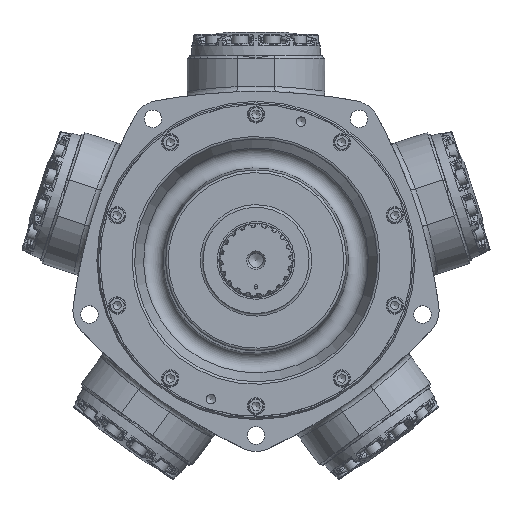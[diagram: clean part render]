
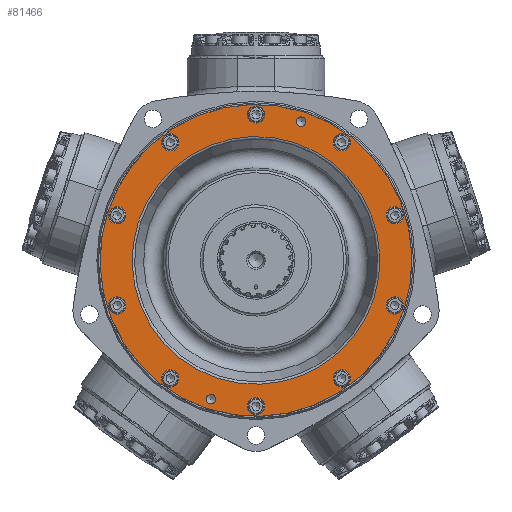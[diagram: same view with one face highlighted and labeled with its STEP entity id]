
A CAD part, top view. The second image highlights one B-rep face of the part: STEP entity #81466.
In plain terms, the highlighted planar face has unit normal (0, 0, 1).
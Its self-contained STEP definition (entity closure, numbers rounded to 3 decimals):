
#7433=FACE_BOUND('',#16853,.T.);
#7434=FACE_BOUND('',#16854,.T.);
#7435=FACE_BOUND('',#16855,.T.);
#7436=FACE_BOUND('',#16856,.T.);
#7437=FACE_BOUND('',#16857,.T.);
#7438=FACE_BOUND('',#16858,.T.);
#7439=FACE_BOUND('',#16859,.T.);
#7440=FACE_BOUND('',#16860,.T.);
#7441=FACE_BOUND('',#16861,.T.);
#7442=FACE_BOUND('',#16862,.T.);
#7443=FACE_BOUND('',#16863,.T.);
#7444=FACE_BOUND('',#16864,.T.);
#7445=FACE_BOUND('',#16865,.T.);
#8194=PLANE('',#87133);
#11674=FACE_OUTER_BOUND('',#16852,.T.);
#16852=EDGE_LOOP('',(#58495));
#16853=EDGE_LOOP('',(#58496));
#16854=EDGE_LOOP('',(#58497));
#16855=EDGE_LOOP('',(#58498));
#16856=EDGE_LOOP('',(#58499));
#16857=EDGE_LOOP('',(#58500));
#16858=EDGE_LOOP('',(#58501));
#16859=EDGE_LOOP('',(#58502));
#16860=EDGE_LOOP('',(#58503));
#16861=EDGE_LOOP('',(#58504));
#16862=EDGE_LOOP('',(#58505));
#16863=EDGE_LOOP('',(#58506));
#16864=EDGE_LOOP('',(#58507));
#16865=EDGE_LOOP('',(#58508));
#28955=CIRCLE('',#87114,148.273);
#28967=CIRCLE('',#87134,186.628);
#28968=CIRCLE('',#87135,5.664);
#28969=CIRCLE('',#87136,5.664);
#28970=CIRCLE('',#87137,10.319);
#28971=CIRCLE('',#87138,10.319);
#28972=CIRCLE('',#87139,10.319);
#28973=CIRCLE('',#87140,10.319);
#28974=CIRCLE('',#87141,10.319);
#28975=CIRCLE('',#87142,10.319);
#28976=CIRCLE('',#87143,10.319);
#28977=CIRCLE('',#87144,10.319);
#28978=CIRCLE('',#87145,10.319);
#28979=CIRCLE('',#87146,10.319);
#33779=VERTEX_POINT('',#150720);
#33789=VERTEX_POINT('',#150754);
#33790=VERTEX_POINT('',#150756);
#33791=VERTEX_POINT('',#150758);
#33792=VERTEX_POINT('',#150760);
#33793=VERTEX_POINT('',#150762);
#33794=VERTEX_POINT('',#150764);
#33795=VERTEX_POINT('',#150766);
#33796=VERTEX_POINT('',#150768);
#33797=VERTEX_POINT('',#150770);
#33798=VERTEX_POINT('',#150772);
#33799=VERTEX_POINT('',#150774);
#33800=VERTEX_POINT('',#150776);
#33801=VERTEX_POINT('',#150778);
#42538=EDGE_CURVE('',#33779,#33779,#28955,.T.);
#42553=EDGE_CURVE('',#33789,#33789,#28967,.T.);
#42554=EDGE_CURVE('',#33790,#33790,#28968,.T.);
#42555=EDGE_CURVE('',#33791,#33791,#28969,.T.);
#42556=EDGE_CURVE('',#33792,#33792,#28970,.T.);
#42557=EDGE_CURVE('',#33793,#33793,#28971,.T.);
#42558=EDGE_CURVE('',#33794,#33794,#28972,.T.);
#42559=EDGE_CURVE('',#33795,#33795,#28973,.T.);
#42560=EDGE_CURVE('',#33796,#33796,#28974,.T.);
#42561=EDGE_CURVE('',#33797,#33797,#28975,.T.);
#42562=EDGE_CURVE('',#33798,#33798,#28976,.T.);
#42563=EDGE_CURVE('',#33799,#33799,#28977,.T.);
#42564=EDGE_CURVE('',#33800,#33800,#28978,.T.);
#42565=EDGE_CURVE('',#33801,#33801,#28979,.T.);
#58495=ORIENTED_EDGE('',*,*,#42553,.T.);
#58496=ORIENTED_EDGE('',*,*,#42554,.T.);
#58497=ORIENTED_EDGE('',*,*,#42555,.T.);
#58498=ORIENTED_EDGE('',*,*,#42556,.T.);
#58499=ORIENTED_EDGE('',*,*,#42557,.T.);
#58500=ORIENTED_EDGE('',*,*,#42558,.T.);
#58501=ORIENTED_EDGE('',*,*,#42559,.T.);
#58502=ORIENTED_EDGE('',*,*,#42560,.T.);
#58503=ORIENTED_EDGE('',*,*,#42561,.T.);
#58504=ORIENTED_EDGE('',*,*,#42562,.T.);
#58505=ORIENTED_EDGE('',*,*,#42563,.T.);
#58506=ORIENTED_EDGE('',*,*,#42564,.T.);
#58507=ORIENTED_EDGE('',*,*,#42565,.T.);
#58508=ORIENTED_EDGE('',*,*,#42538,.F.);
#81466=ADVANCED_FACE('',(#11674,#7433,#7434,#7435,#7436,#7437,#7438,#7439,
#7440,#7441,#7442,#7443,#7444,#7445),#8194,.T.);
#87114=AXIS2_PLACEMENT_3D('',#150722,#97764,#97765);
#87133=AXIS2_PLACEMENT_3D('',#150753,#97805,#97806);
#87134=AXIS2_PLACEMENT_3D('',#150755,#97807,#97808);
#87135=AXIS2_PLACEMENT_3D('',#150757,#97809,#97810);
#87136=AXIS2_PLACEMENT_3D('',#150759,#97811,#97812);
#87137=AXIS2_PLACEMENT_3D('',#150761,#97813,#97814);
#87138=AXIS2_PLACEMENT_3D('',#150763,#97815,#97816);
#87139=AXIS2_PLACEMENT_3D('',#150765,#97817,#97818);
#87140=AXIS2_PLACEMENT_3D('',#150767,#97819,#97820);
#87141=AXIS2_PLACEMENT_3D('',#150769,#97821,#97822);
#87142=AXIS2_PLACEMENT_3D('',#150771,#97823,#97824);
#87143=AXIS2_PLACEMENT_3D('',#150773,#97825,#97826);
#87144=AXIS2_PLACEMENT_3D('',#150775,#97827,#97828);
#87145=AXIS2_PLACEMENT_3D('',#150777,#97829,#97830);
#87146=AXIS2_PLACEMENT_3D('',#150779,#97831,#97832);
#97764=DIRECTION('center_axis',(0.,0.,
1.));
#97765=DIRECTION('ref_axis',(-0.309,-0.951,0.));
#97805=DIRECTION('center_axis',(0.,0.,
1.));
#97806=DIRECTION('ref_axis',(0.951,-0.309,0.));
#97807=DIRECTION('center_axis',(0.,0.,
1.));
#97808=DIRECTION('ref_axis',(0.309,0.951,0.));
#97809=DIRECTION('center_axis',(0.,0.,
-1.));
#97810=DIRECTION('ref_axis',(0.951,-0.309,0.));
#97811=DIRECTION('center_axis',(0.,0.,
-1.));
#97812=DIRECTION('ref_axis',(0.951,-0.309,0.));
#97813=DIRECTION('center_axis',(0.,0.,
-1.));
#97814=DIRECTION('ref_axis',(-0.588,0.809,0.));
#97815=DIRECTION('center_axis',(0.,0.,
-1.));
#97816=DIRECTION('ref_axis',(0.,1.,0.));
#97817=DIRECTION('center_axis',(0.,0.,
-1.));
#97818=DIRECTION('ref_axis',(0.588,0.809,0.));
#97819=DIRECTION('center_axis',(0.,0.,
-1.));
#97820=DIRECTION('ref_axis',(0.951,0.309,0.));
#97821=DIRECTION('center_axis',(0.,0.,
-1.));
#97822=DIRECTION('ref_axis',(0.951,-0.309,0.));
#97823=DIRECTION('center_axis',(0.,0.,
-1.));
#97824=DIRECTION('ref_axis',(0.588,-0.809,0.));
#97825=DIRECTION('center_axis',(0.,0.,
-1.));
#97826=DIRECTION('ref_axis',(0.,-1.,0.));
#97827=DIRECTION('center_axis',(0.,0.,
-1.));
#97828=DIRECTION('ref_axis',(-0.588,-0.809,0.));
#97829=DIRECTION('center_axis',(0.,0.,
-1.));
#97830=DIRECTION('ref_axis',(-0.951,-0.309,0.));
#97831=DIRECTION('center_axis',(0.,0.,
-1.));
#97832=DIRECTION('ref_axis',(-0.951,0.309,0.));
#150720=CARTESIAN_POINT('',(-141.016,45.819,119.254));
#150722=CARTESIAN_POINT('Origin',(0.,0.,
119.254));
#150753=CARTESIAN_POINT('Origin',(52.49,161.549,119.254));
#150754=CARTESIAN_POINT('',(-57.671,-177.493,119.254));
#150755=CARTESIAN_POINT('Origin',(0.,0.,
119.254));
#150756=CARTESIAN_POINT('',(48.575,167.829,119.254));
#150757=CARTESIAN_POINT('Origin',(53.962,166.078,119.254));
#150758=CARTESIAN_POINT('',(-59.349,-164.328,119.254));
#150759=CARTESIAN_POINT('Origin',(-53.962,-166.078,119.254));
#150760=CARTESIAN_POINT('',(108.707,-149.623,119.254));
#150761=CARTESIAN_POINT('Origin',(102.642,-141.275,119.254));
#150762=CARTESIAN_POINT('',(0.,-184.944,119.254));
#150763=CARTESIAN_POINT('Origin',(0.,-174.625,119.254));
#150764=CARTESIAN_POINT('',(-108.707,-149.623,119.254));
#150765=CARTESIAN_POINT('Origin',(-102.642,-141.275,119.254));
#150766=CARTESIAN_POINT('',(-175.892,-57.151,119.254));
#150767=CARTESIAN_POINT('Origin',(-166.078,-53.962,119.254));
#150768=CARTESIAN_POINT('',(-175.892,57.151,119.254));
#150769=CARTESIAN_POINT('Origin',(-166.078,53.962,119.254));
#150770=CARTESIAN_POINT('',(-108.707,149.623,119.254));
#150771=CARTESIAN_POINT('Origin',(-102.642,141.275,119.254));
#150772=CARTESIAN_POINT('',(0.,184.944,119.254));
#150773=CARTESIAN_POINT('Origin',(0.,174.625,119.254));
#150774=CARTESIAN_POINT('',(108.707,149.623,119.254));
#150775=CARTESIAN_POINT('Origin',(102.642,141.275,119.254));
#150776=CARTESIAN_POINT('',(175.892,57.151,119.254));
#150777=CARTESIAN_POINT('Origin',(166.078,53.962,119.254));
#150778=CARTESIAN_POINT('',(175.892,-57.151,119.254));
#150779=CARTESIAN_POINT('Origin',(166.078,-53.962,119.254));
